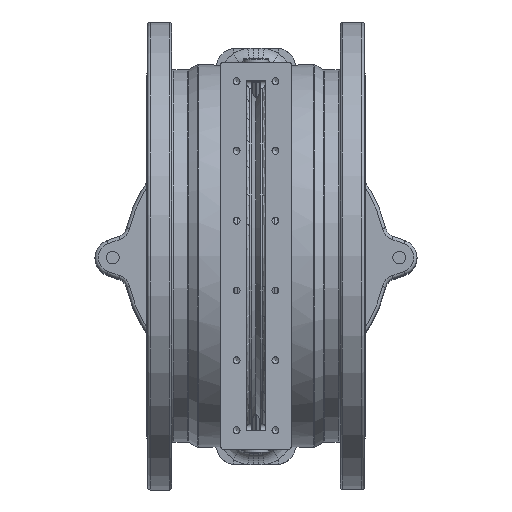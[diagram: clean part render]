
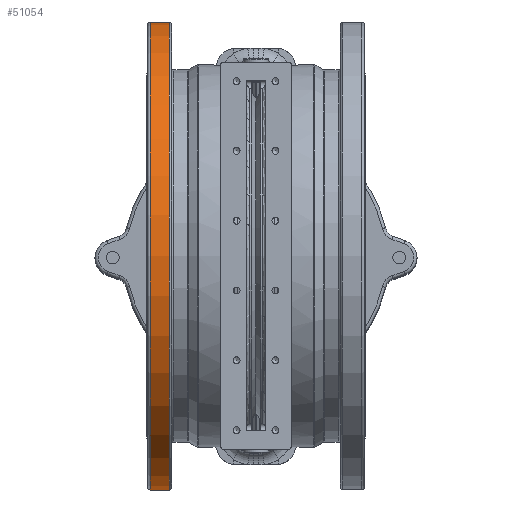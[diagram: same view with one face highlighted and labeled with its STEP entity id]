
A CAD part, top view. The second image highlights one B-rep face of the part: STEP entity #51054.
In plain terms, the highlighted cylindrical face has radius 295 mm (diameter 590 mm), a full revolution.
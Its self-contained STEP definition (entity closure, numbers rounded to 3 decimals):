
#4514=CYLINDRICAL_SURFACE('',#54614,295.);
#5520=LINE('',#77384,#8259);
#8259=VECTOR('',#61875,295.);
#11760=FACE_OUTER_BOUND('',#14918,.T.);
#14918=EDGE_LOOP('',(#35517,#35518,#35519,#35520,#35521));
#18674=CIRCLE('',#54609,295.);
#18678=CIRCLE('',#54615,295.);
#18679=CIRCLE('',#54616,295.);
#22361=VERTEX_POINT('',#77371);
#22364=VERTEX_POINT('',#77380);
#22365=VERTEX_POINT('',#77381);
#27380=EDGE_CURVE('',#22361,#22361,#18674,.T.);
#27384=EDGE_CURVE('',#22364,#22365,#18678,.T.);
#27385=EDGE_CURVE('',#22365,#22364,#18679,.T.);
#27386=EDGE_CURVE('',#22364,#22361,#5520,.T.);
#35517=ORIENTED_EDGE('',*,*,#27384,.T.);
#35518=ORIENTED_EDGE('',*,*,#27385,.T.);
#35519=ORIENTED_EDGE('',*,*,#27386,.T.);
#35520=ORIENTED_EDGE('',*,*,#27380,.F.);
#35521=ORIENTED_EDGE('',*,*,#27386,.F.);
#51054=ADVANCED_FACE('',(#11760),#4514,.T.);
#54609=AXIS2_PLACEMENT_3D('',#77372,#61859,#61860);
#54614=AXIS2_PLACEMENT_3D('',#77379,#61869,#61870);
#54615=AXIS2_PLACEMENT_3D('',#77382,#61871,#61872);
#54616=AXIS2_PLACEMENT_3D('',#77383,#61873,#61874);
#61859=DIRECTION('center_axis',(-1.,0.,0.));
#61860=DIRECTION('ref_axis',(0.,0.,
-1.));
#61869=DIRECTION('center_axis',(1.,0.,0.));
#61870=DIRECTION('ref_axis',(0.,0.,
-1.));
#61871=DIRECTION('center_axis',(-1.,0.,0.));
#61872=DIRECTION('ref_axis',(0.,0.,
1.));
#61873=DIRECTION('center_axis',(-1.,0.,0.));
#61874=DIRECTION('ref_axis',(0.,0.,
1.));
#61875=DIRECTION('',(-1.,0.,0.));
#77371=CARTESIAN_POINT('',(-133.5,0.,295.));
#77372=CARTESIAN_POINT('Origin',(-133.5,0.,
0.));
#77379=CARTESIAN_POINT('Origin',(-131.5,0.,
0.));
#77380=CARTESIAN_POINT('',(-109.5,0.,295.));
#77381=CARTESIAN_POINT('',(-109.5,0.,-295.));
#77382=CARTESIAN_POINT('Origin',(-109.5,0.,
0.));
#77383=CARTESIAN_POINT('Origin',(-109.5,0.,
0.));
#77384=CARTESIAN_POINT('',(-131.5,0.,295.));
